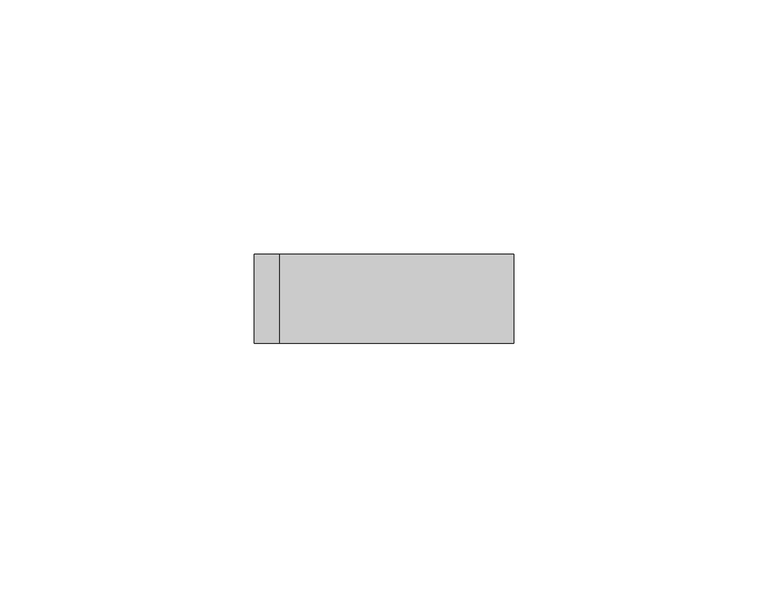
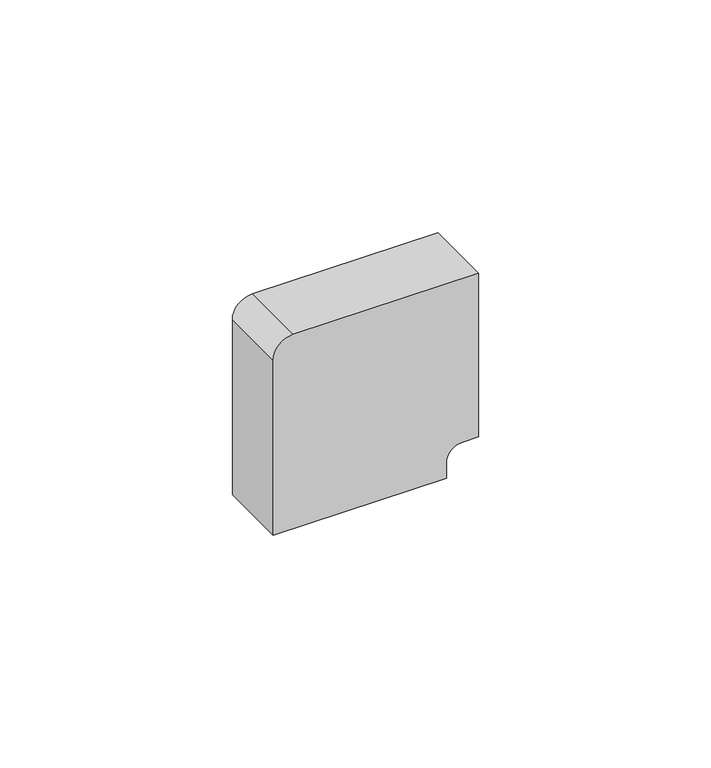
"""IFC4 building model written with IfcOpenShell, lengths in millimetres: proxy geometry, Поворот_на_90_гр.КМП : Поворот на 90 гр. КМП 40x16."""

from ifc_helpers import new_model, si_unit, point, frame, frame_2d, origin, place, context, project, spatial, polyline, circle_curve, trimmed, segment, composite_curve, outline, extrude, source, transform, mapped, element, save


def generic_models_8c66e826(model_context):
    return source(origin(), model_context, "Body", "SweptSolid", [
        extrude(outline(composite_curve([segment(polyline([(2.0580612, -8.0), (6.0580612, -8.0)]), True, "CONTINUOUS"), segment(trimmed(circle_curve(frame_2d((6.0580612, -4.0)), 4.0), [point((6.0580612, -8.0))], [point((10.0580612, -4.0))], True, "CARTESIAN"), True, "CONTINUOUS"), segment(polyline([(10.0580612, -4.0), (10.0580612, 0.0), (53.0580612, 0.0), (53.0580612, -45.9954444)]), True, "CONTINUOUS"), segment(trimmed(circle_curve(frame_2d((48.0535056, -45.9954444)), 5.0045556), [point((53.0580612, -45.9954444))], [point((48.0535056, -51.0))], False, "CARTESIAN"), True, "CONTINUOUS"), segment(polyline([(48.0535056, -51.0), (2.0580612, -51.0), (2.0580612, -8.0)]), True, "CONTINUOUS")], self_intersect=False)), frame((0.0, -17.5, 0.0), z_axis=(0.0, 1.0, 0.0), x_axis=(0.0, 0.0, 1.0)), (0.0, 0.0, 1.0), 17.5),
    ])


if __name__ == "__main__":
    model = new_model("IFC4")
    model_context = context("Model", 3, world=origin())
    ifc_project = project(units=[si_unit("LENGTHUNIT", "METRE", prefix="MILLI")], contexts=[model_context])
    site = spatial("IfcSite", under=ifc_project)
    building = spatial("IfcBuilding", under=site)
    placement = place(None, origin())
    generic_models_shape = generic_models_8c66e826(model_context)
    element("IfcBuildingElementProxy", 1, Name="Поворот_на_90_гр.КМП : Поворот на 90 гр. КМП 40x16", ObjectType="Поворот_на_90_гр.КМП : Поворот на 90 гр. КМП 40x16", at=placement, inside=building, context=model_context, shape_type="MappedRepresentation", body=[
        mapped(generic_models_shape, transform((0.0, 0.0, 0.0), x_axis=(1.0, 0.0, 0.0), y_axis=(0.0, 1.0, 0.0), z_axis=(0.0, 0.0, 1.0))),
    ])
    save(model, "model.ifc")
